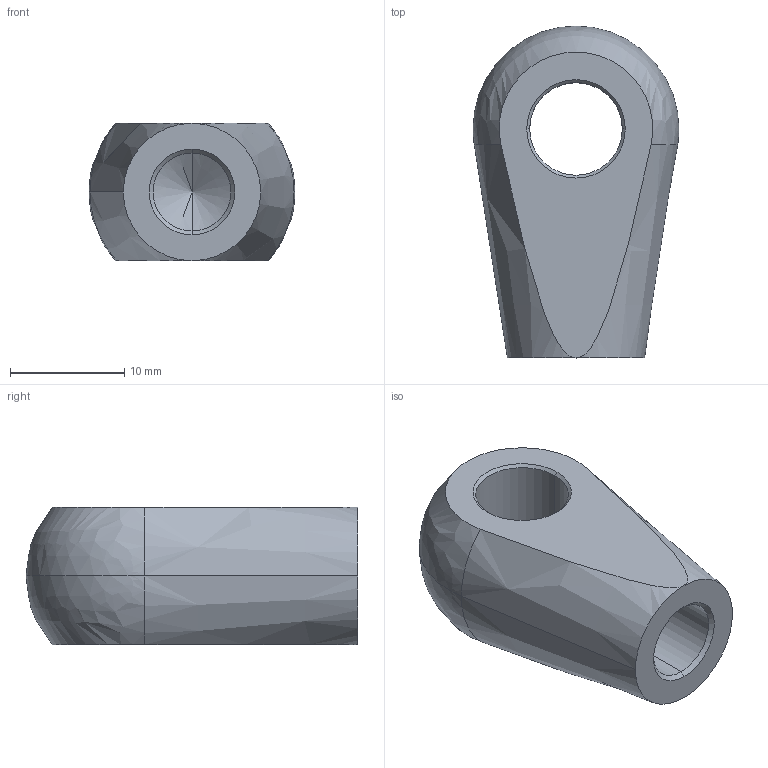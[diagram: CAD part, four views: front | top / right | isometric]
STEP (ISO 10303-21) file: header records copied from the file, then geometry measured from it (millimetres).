
FILE_DESCRIPTION (( 'STEP AP214' ), '1' );
FILE_NAME ('18.08A1L20SAMAC.STEP', '2017-11-09T09:37:15', ( '' ), ( '' ), 'SwSTEP 2.0', 'SolidWorks 2016', '' );
FILE_SCHEMA (( 'AUTOMOTIVE_DESIGN' ));
Length unit declared in the file: millimetre
Products named in the file (1): 18.08A1L20SAMAC
Bounding box: 18 x 29 x 12 mm (x, y, z)
Volume: 3381.1 mm3; surface area: 1983.1 mm2
Topology: 1 solids, 1 shells, 20 faces, 49 edges, 26 vertices
Faces by surface type: cone 11, cylinder 4, plane 3, bspline 2
Entity records: 781 total; most frequent: CARTESIAN_POINT 306, DIRECTION 99, ORIENTED_EDGE 86, AXIS2_PLACEMENT_3D 43, EDGE_CURVE 43, VERTEX_POINT 26, CIRCLE 24, EDGE_LOOP 23
